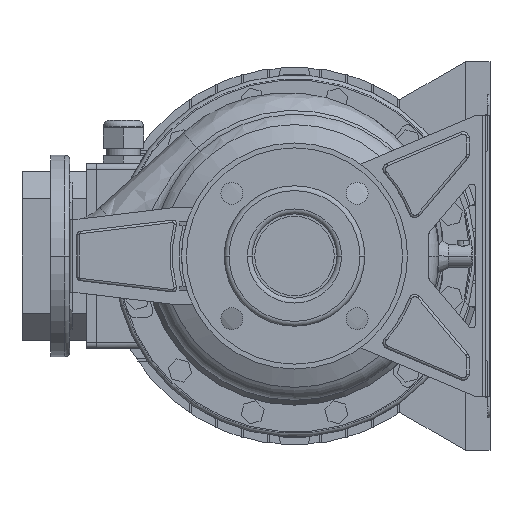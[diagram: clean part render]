
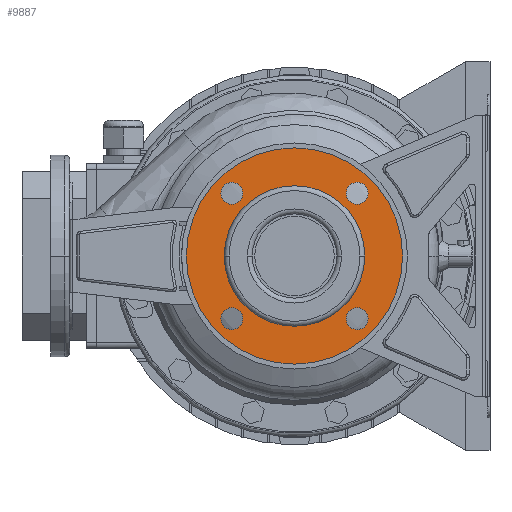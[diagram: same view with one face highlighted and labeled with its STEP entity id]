
A CAD part, left-side view. The second image highlights one B-rep face of the part: STEP entity #9887.
In plain terms, the highlighted planar face has unit normal (-1, 0, 0).
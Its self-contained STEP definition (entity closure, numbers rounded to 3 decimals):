
#9316=CARTESIAN_POINT('',(12.,0.,0.));
#9317=DIRECTION('',(-1.,0.,0.));
#9318=DIRECTION('',(0.,1.,0.));
#9319=AXIS2_PLACEMENT_3D('',#9316,#9317,#9318);
#9321=CARTESIAN_POINT('',(12.,0.,0.));
#9322=DIRECTION('',(1.,0.,0.));
#9323=DIRECTION('',(0.,1.,0.));
#9324=AXIS2_PLACEMENT_3D('',#9321,#9322,#9323);
#9326=CARTESIAN_POINT('',(12.,-51.265,51.265));
#9327=DIRECTION('',(1.,0.,0.));
#9328=DIRECTION('',(0.,1.,0.));
#9329=AXIS2_PLACEMENT_3D('',#9326,#9327,#9328);
#9331=CARTESIAN_POINT('',(12.,-51.265,51.265));
#9332=DIRECTION('',(1.,0.,0.));
#9333=DIRECTION('',(0.,-1.,0.));
#9334=AXIS2_PLACEMENT_3D('',#9331,#9332,#9333);
#9336=CARTESIAN_POINT('',(12.,-51.265,-51.265));
#9337=DIRECTION('',(1.,0.,0.));
#9338=DIRECTION('',(0.,0.,1.));
#9339=AXIS2_PLACEMENT_3D('',#9336,#9337,#9338);
#9341=CARTESIAN_POINT('',(12.,-51.265,-51.265));
#9342=DIRECTION('',(1.,0.,0.));
#9343=DIRECTION('',(0.,0.,-1.));
#9344=AXIS2_PLACEMENT_3D('',#9341,#9342,#9343);
#9346=CARTESIAN_POINT('',(12.,51.265,-51.265));
#9347=DIRECTION('',(1.,0.,0.));
#9348=DIRECTION('',(0.,-1.,0.));
#9349=AXIS2_PLACEMENT_3D('',#9346,#9347,#9348);
#9351=CARTESIAN_POINT('',(12.,51.265,-51.265));
#9352=DIRECTION('',(1.,0.,0.));
#9353=DIRECTION('',(0.,1.,0.));
#9354=AXIS2_PLACEMENT_3D('',#9351,#9352,#9353);
#9356=CARTESIAN_POINT('',(12.,51.265,51.265));
#9357=DIRECTION('',(1.,0.,0.));
#9358=DIRECTION('',(0.,0.,-1.));
#9359=AXIS2_PLACEMENT_3D('',#9356,#9357,#9358);
#9361=CARTESIAN_POINT('',(12.,51.265,51.265));
#9362=DIRECTION('',(1.,0.,0.));
#9363=DIRECTION('',(0.,0.,1.));
#9364=AXIS2_PLACEMENT_3D('',#9361,#9362,#9363);
#9366=CARTESIAN_POINT('',(12.,0.,0.));
#9367=DIRECTION('',(1.,0.,0.));
#9368=DIRECTION('',(0.,1.,0.));
#9369=AXIS2_PLACEMENT_3D('',#9366,#9367,#9368);
#9379=CARTESIAN_POINT('',(12.,0.,0.));
#9380=DIRECTION('',(-1.,0.,0.));
#9381=DIRECTION('',(0.,1.,0.));
#9382=AXIS2_PLACEMENT_3D('',#9379,#9380,#9381);
#9487=CARTESIAN_POINT('',(12.,88.5,0.));
#9489=VERTEX_POINT('',#9487);
#9490=CARTESIAN_POINT('',(12.,57.5,0.));
#9492=VERTEX_POINT('',#9490);
#9519=CARTESIAN_POINT('',(12.,-88.5,0.));
#9521=VERTEX_POINT('',#9519);
#9522=CARTESIAN_POINT('',(12.,-57.5,0.));
#9524=VERTEX_POINT('',#9522);
#9534=CARTESIAN_POINT('',(12.,-42.265,51.265));
#9535=CARTESIAN_POINT('',(12.,-60.265,51.265));
#9536=VERTEX_POINT('',#9534);
#9537=VERTEX_POINT('',#9535);
#9542=CARTESIAN_POINT('',(12.,-51.265,-42.265));
#9543=CARTESIAN_POINT('',(12.,-51.265,-60.265));
#9544=VERTEX_POINT('',#9542);
#9545=VERTEX_POINT('',#9543);
#9550=CARTESIAN_POINT('',(12.,42.265,-51.265));
#9551=CARTESIAN_POINT('',(12.,60.265,-51.265));
#9552=VERTEX_POINT('',#9550);
#9553=VERTEX_POINT('',#9551);
#9558=CARTESIAN_POINT('',(12.,51.265,42.265));
#9559=CARTESIAN_POINT('',(12.,51.265,60.265));
#9560=VERTEX_POINT('',#9558);
#9561=VERTEX_POINT('',#9559);
#9848=CARTESIAN_POINT('',(12.,0.,0.));
#9849=DIRECTION('',(1.,0.,0.));
#9850=DIRECTION('',(0.,-1.,0.));
#9851=AXIS2_PLACEMENT_3D('',#9848,#9849,#9850);
#9852=PLANE('',#9851);
#9853=ORIENTED_EDGE('',*,*,#9841,.F.);
#9854=ORIENTED_EDGE('',*,*,#9830,.T.);
#9855=EDGE_LOOP('',(#9853,#9854));
#9856=FACE_OUTER_BOUND('',#9855,.F.);
#9858=ORIENTED_EDGE('',*,*,#9857,.F.);
#9860=ORIENTED_EDGE('',*,*,#9859,.T.);
#9861=EDGE_LOOP('',(#9858,#9860));
#9862=FACE_BOUND('',#9861,.F.);
#9864=ORIENTED_EDGE('',*,*,#9863,.F.);
#9866=ORIENTED_EDGE('',*,*,#9865,.F.);
#9867=EDGE_LOOP('',(#9864,#9866));
#9868=FACE_BOUND('',#9867,.F.);
#9870=ORIENTED_EDGE('',*,*,#9869,.F.);
#9872=ORIENTED_EDGE('',*,*,#9871,.F.);
#9873=EDGE_LOOP('',(#9870,#9872));
#9874=FACE_BOUND('',#9873,.F.);
#9876=ORIENTED_EDGE('',*,*,#9875,.F.);
#9878=ORIENTED_EDGE('',*,*,#9877,.F.);
#9879=EDGE_LOOP('',(#9876,#9878));
#9880=FACE_BOUND('',#9879,.F.);
#9882=ORIENTED_EDGE('',*,*,#9881,.F.);
#9884=ORIENTED_EDGE('',*,*,#9883,.F.);
#9885=EDGE_LOOP('',(#9882,#9884));
#9886=FACE_BOUND('',#9885,.F.);
#9320=CIRCLE('',#9319,88.5);
#9325=CIRCLE('',#9324,88.5);
#9330=CIRCLE('',#9329,9.);
#9335=CIRCLE('',#9334,9.);
#9340=CIRCLE('',#9339,9.);
#9345=CIRCLE('',#9344,9.);
#9350=CIRCLE('',#9349,9.);
#9355=CIRCLE('',#9354,9.);
#9360=CIRCLE('',#9359,9.);
#9365=CIRCLE('',#9364,9.);
#9370=CIRCLE('',#9369,57.5);
#9383=CIRCLE('',#9382,57.5);
#9830=EDGE_CURVE('',#9489,#9521,#9325,.T.);
#9841=EDGE_CURVE('',#9489,#9521,#9320,.T.);
#9857=EDGE_CURVE('',#9492,#9524,#9370,.T.);
#9859=EDGE_CURVE('',#9492,#9524,#9383,.T.);
#9863=EDGE_CURVE('',#9536,#9537,#9330,.T.);
#9865=EDGE_CURVE('',#9537,#9536,#9335,.T.);
#9869=EDGE_CURVE('',#9544,#9545,#9340,.T.);
#9871=EDGE_CURVE('',#9545,#9544,#9345,.T.);
#9875=EDGE_CURVE('',#9552,#9553,#9350,.T.);
#9877=EDGE_CURVE('',#9553,#9552,#9355,.T.);
#9881=EDGE_CURVE('',#9560,#9561,#9360,.T.);
#9883=EDGE_CURVE('',#9561,#9560,#9365,.T.);
#9887=ADVANCED_FACE('',(#9856,#9862,#9868,#9874,#9880,#9886),#9852,.F.);
